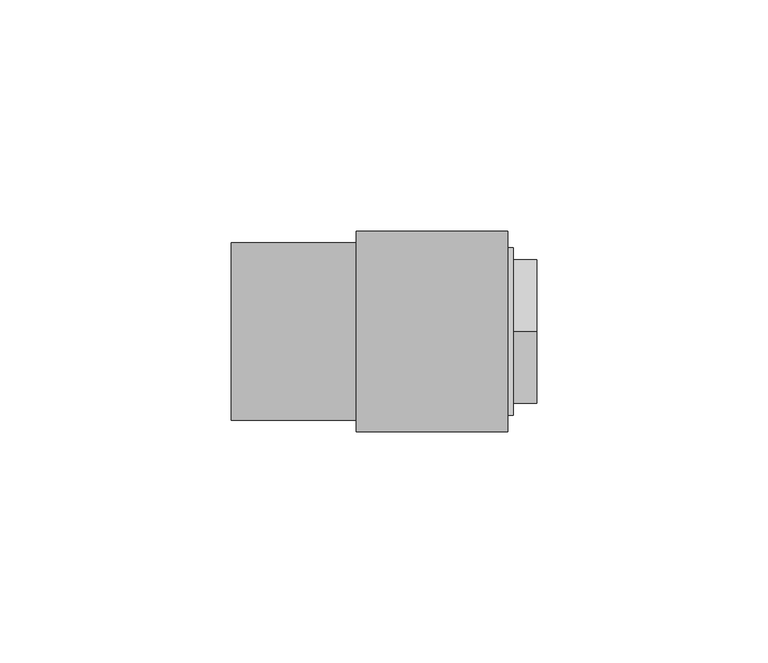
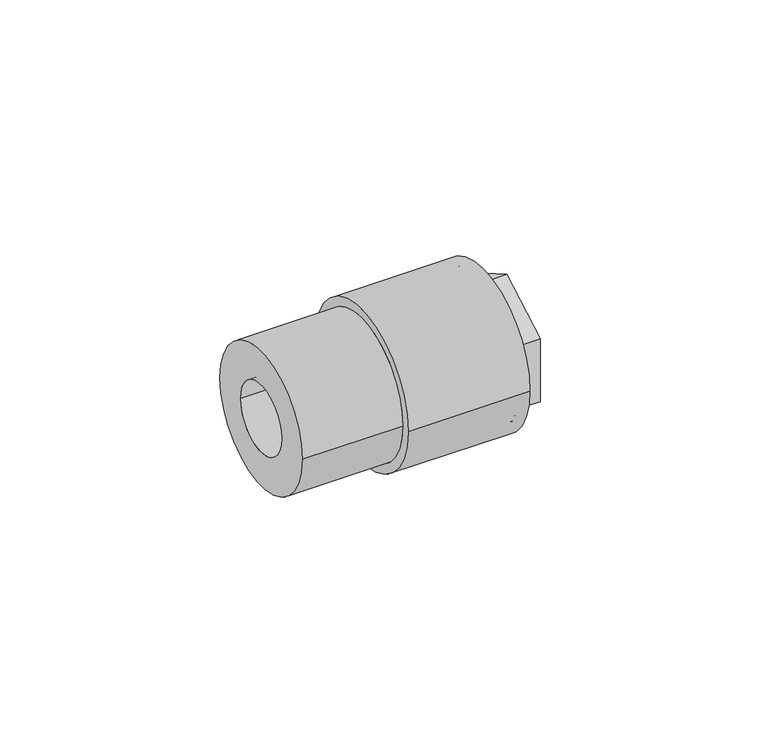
"""IFC4 building model written with IfcOpenShell, lengths in millimetres: pipe fitting geometry, Aquatherm - Fusion Outlet Transition Female : POTABLE BRASS - HEX."""

from ifc_helpers import new_model, si_unit, frame, origin, place, context, project, spatial, polyline, circle_curve, source, transform, mapped, element, save
from ifc_brep_helpers import plane_surface, cylinder_surface, revolved_surface, advanced_brep


def pipe_fitting_83f90b11(model_context):
    return source(origin(), model_context, "Body", "AdvancedBrep", [
        advanced_brep(
        [(25.62225, 12.7, 0.0), (25.62225, -12.7, 0.0), (36.5363125, -12.7, 0.0), (36.5363125, 12.7, 0.0), (25.62225, 13.49375, 0.0), (25.62225, -13.49375, 0.0), (22.44725, 13.49375, 0.0), (22.44725, -13.49375, 0.0), (22.44725, 9.525, 0.0), (22.44725, -9.525, 0.0), (19.27225, 9.525, 0.0), (19.27225, -9.525, 0.0), (19.27225, 19.177, 0.0), (19.27225, -19.177, 0.0), (32.766, 19.177, 0.0), (32.766, -19.177, 0.0), (39.116, 13.49375, 0.0), (39.116, -13.49375, 0.0), (39.116, -15.494, 0.0), (39.116, -15.494, -8.9454651), (39.116, 0.0, -17.8909301), (39.116, 15.494, -8.9454651), (39.116, 15.494, 0.0), (39.116, 15.494, 8.9454651), (39.116, 0.0, 17.8909301), (39.116, -15.494, 8.9454651), (32.766, 18.161, 0.0), (32.766, -18.161, 0.0), (33.956625, 18.161, 0.0), (33.956625, -18.161, 0.0), (33.956625, 0.0, -17.8909301), (33.956625, -15.494, -8.9454651), (33.956625, -15.494, 8.9454651), (33.956625, 0.0, 17.8909301), (33.956625, 15.494, 8.9454651), (33.956625, 15.494, -8.9454651)],
        [
            (0, 1, circle_curve(frame((25.62225, 0.0, 0.0), z_axis=(-1.0, 0.0, 0.0), x_axis=(0.0, -1.0, 0.0)), 12.7)),
            (1, 2),
            (2, 3, circle_curve(frame((36.5363125, 0.0, 0.0), z_axis=(1.0, 0.0, 0.0), x_axis=(0.0, -1.0, 0.0)), 12.7)),
            (3, 0),
            (1, 0, circle_curve(frame((25.62225, 0.0, 0.0), z_axis=(-1.0, 0.0, 0.0), x_axis=(0.0, -1.0, 0.0)), 12.7)),
            (3, 2, circle_curve(frame((36.5363125, 0.0, 0.0), z_axis=(1.0, 0.0, 0.0), x_axis=(0.0, -1.0, 0.0)), 12.7)),
            (0, 4),
            (4, 5, circle_curve(frame((25.62225, 0.0, 0.0), z_axis=(-1.0, 0.0, 0.0), x_axis=(0.0, -1.0, 0.0)), 13.49375)),
            (5, 1),
            (5, 4, circle_curve(frame((25.62225, 0.0, 0.0), z_axis=(-1.0, 0.0, 0.0), x_axis=(0.0, -1.0, 0.0)), 13.49375)),
            (4, 6),
            (6, 7, circle_curve(frame((22.44725, 0.0, 0.0), z_axis=(-1.0, 0.0, 0.0), x_axis=(0.0, -1.0, 0.0)), 13.49375)),
            (7, 5),
            (7, 6, circle_curve(frame((22.44725, 0.0, 0.0), z_axis=(-1.0, 0.0, 0.0), x_axis=(0.0, -1.0, 0.0)), 13.49375)),
            (6, 8),
            (8, 9, circle_curve(frame((22.44725, 0.0, 0.0), z_axis=(-1.0, 0.0, 0.0), x_axis=(0.0, -1.0, 0.0)), 9.525)),
            (9, 7),
            (9, 8, circle_curve(frame((22.44725, 0.0, 0.0), z_axis=(-1.0, 0.0, 0.0), x_axis=(0.0, -1.0, 0.0)), 9.525)),
            (8, 10),
            (10, 11, circle_curve(frame((19.27225, 0.0, 0.0), z_axis=(-1.0, 0.0, 0.0), x_axis=(0.0, -1.0, 0.0)), 9.525)),
            (11, 9),
            (11, 10, circle_curve(frame((19.27225, 0.0, 0.0), z_axis=(-1.0, 0.0, 0.0), x_axis=(0.0, -1.0, 0.0)), 9.525)),
            (10, 12),
            (12, 13, circle_curve(frame((19.27225, 0.0, 0.0), z_axis=(-1.0, 0.0, 0.0), x_axis=(0.0, -1.0, 0.0)), 19.177)),
            (13, 11),
            (13, 12, circle_curve(frame((19.27225, 0.0, 0.0), z_axis=(-1.0, 0.0, 0.0), x_axis=(0.0, -1.0, 0.0)), 19.177)),
            (12, 14),
            (14, 15, circle_curve(frame((32.766, 0.0, 0.0), z_axis=(-1.0, 0.0, 0.0), x_axis=(0.0, -1.0, 0.0)), 19.177)),
            (15, 13),
            (15, 14, circle_curve(frame((32.766, 0.0, 0.0), z_axis=(-1.0, 0.0, 0.0), x_axis=(0.0, -1.0, 0.0)), 19.177)),
            (16, 17, circle_curve(frame((39.116, 0.0, 0.0), z_axis=(-1.0, 0.0, 0.0), x_axis=(0.0, -1.0, 0.0)), 13.49375)),
            (17, 18),
            (18, 19),
            (19, 20),
            (20, 21),
            (21, 22),
            (22, 16),
            (17, 16, circle_curve(frame((39.116, 0.0, 0.0), z_axis=(-1.0, 0.0, 0.0), x_axis=(0.0, -1.0, 0.0)), 13.49375)),
            (22, 23),
            (23, 24),
            (24, 25),
            (25, 18),
            (2, 17),
            (16, 3),
            (14, 26),
            (26, 27, circle_curve(frame((32.766, 0.0, 0.0), z_axis=(-1.0, 0.0, 0.0), x_axis=(0.0, -1.0, 0.0)), 18.161)),
            (27, 15),
            (27, 26, circle_curve(frame((32.766, 0.0, 0.0), z_axis=(-1.0, 0.0, 0.0), x_axis=(0.0, -1.0, 0.0)), 18.161)),
            (26, 28),
            (28, 29, circle_curve(frame((33.956625, 0.0, 0.0), z_axis=(-1.0, 0.0, 0.0), x_axis=(0.0, -1.0, 0.0)), 18.161)),
            (29, 27),
            (29, 28, circle_curve(frame((33.956625, 0.0, 0.0), z_axis=(-1.0, 0.0, 0.0), x_axis=(0.0, -1.0, 0.0)), 18.161)),
            (30, 31),
            (31, 32),
            (32, 33),
            (33, 34),
            (34, 35),
            (35, 30),
            (35, 21),
            (20, 30),
            (34, 23),
            (33, 24),
            (32, 25),
            (31, 19),
        ],
        [
            revolved_surface(polyline([(36.5363125, -12.7, 0.0), (25.62225, -12.7, 0.0)]), (40.9492251, 0.0, 0.0), (1.0, 0.0, 0.0)),
            plane_surface(frame((25.62225, 0.0, 0.0), z_axis=(-1.0, 0.0, 0.0), x_axis=(0.0, -1.0, 0.0))),
            revolved_surface(polyline([(25.62225, -13.49375, 0.0), (22.44725, -13.49375, 0.0)]), (40.9492251, 0.0, 0.0), (1.0, 0.0, 0.0)),
            plane_surface(frame((22.44725, 0.0, 0.0), z_axis=(1.0, 0.0, 0.0), x_axis=(0.0, -1.0, 0.0))),
            revolved_surface(polyline([(22.44725, -9.525, 0.0), (19.27225, -9.525, 0.0)]), (40.9492251, 0.0, 0.0), (1.0, 0.0, 0.0)),
            plane_surface(frame((19.27225, 0.0, 0.0), z_axis=(-1.0, 0.0, 0.0), x_axis=(0.0, -1.0, 0.0))),
            cylinder_surface(frame((40.9492251, 0.0, 0.0), z_axis=(1.0, 0.0, 0.0), x_axis=(0.0, -1.0, 0.0)), 19.177),
            plane_surface(frame((39.116, 0.0, 0.0), z_axis=(1.0, 0.0, 0.0), x_axis=(0.0, -1.0, 0.0))),
            revolved_surface(polyline([(39.116, -13.49375, 0.0), (36.5363125, -12.7, 0.0)]), (40.9492251, 0.0, 0.0), (1.0, 0.0, 0.0)),
            plane_surface(frame((32.766, 0.0, 0.0), z_axis=(1.0, 0.0, 0.0), x_axis=(0.0, -1.0, 0.0))),
            cylinder_surface(frame((40.9492251, 0.0, 0.0), z_axis=(1.0, 0.0, 0.0), x_axis=(0.0, -1.0, 0.0)), 18.161),
            plane_surface(frame((33.956625, 15.494, -8.9454651), z_axis=(1.0000000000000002, 0.0, 0.0), x_axis=(0.0, 0.8660254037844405, 0.49999999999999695))),
            plane_surface(frame((33.956625, 0.0, -17.8909301), z_axis=(0.0, 0.49999999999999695, -0.8660254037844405), x_axis=(1.0, 0.0, 0.0))),
            plane_surface(frame((33.956625, 15.494, -8.9454651), z_axis=(0.0, 1.0, 0.0), x_axis=(1.0, 0.0, 0.0))),
            plane_surface(frame((33.956625, 15.494, 8.9454651), z_axis=(0.0, 0.5000000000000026, 0.8660254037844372), x_axis=(1.0, 0.0, 0.0))),
            plane_surface(frame((33.956625, 0.0, 17.8909301), z_axis=(0.0, -0.499999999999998, 0.8660254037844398), x_axis=(1.0, 0.0, 0.0))),
            plane_surface(frame((33.956625, -15.494, 8.9454651), z_axis=(0.0, -1.0, 0.0), x_axis=(1.0, 0.0, 0.0))),
            plane_surface(frame((33.956625, -15.494, -8.9454651), z_axis=(0.0, -0.5000000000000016, -0.8660254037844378), x_axis=(1.0, 0.0, 0.0))),
        ],
        [
            (0, [[1, 2, 3, 4]]),
            (0, [[-2, 5, -4, 6]]),
            (1, [[-1, 7, 8, 9]]),
            (1, [[-5, -9, 10, -7]]),
            (2, [[-8, 11, 12, 13]]),
            (2, [[-10, -13, 14, -11]]),
            (3, [[-12, 15, 16, 17]]),
            (3, [[-14, -17, 18, -15]]),
            (4, [[-16, 19, 20, 21]]),
            (4, [[-18, -21, 22, -19]]),
            (5, [[-20, 23, 24, 25]]),
            (5, [[-22, -25, 26, -23]]),
            (6, [[-24, 27, 28, 29]]),
            (6, [[-26, -29, 30, -27]]),
            (7, [[31, 32, 33, 34, 35, 36, 37]]),
            (7, [[38, -37, 39, 40, 41, 42, -32]]),
            (8, [[-3, 43, -31, 44]]),
            (8, [[-6, -44, -38, -43]]),
            (9, [[-28, 45, 46, 47]]),
            (9, [[-30, -47, 48, -45]]),
            (10, [[-46, 49, 50, 51]]),
            (10, [[-48, -51, 52, -49]]),
            (11, [[-50, -52], [53, 54, 55, 56, 57, 58]]),
            (12, [[-58, 59, -35, 60]]),
            (13, [[-57, 61, -39, -36, -59]]),
            (14, [[-56, 62, -40, -61]]),
            (15, [[-55, 63, -41, -62]]),
            (16, [[-54, 64, -33, -42, -63]]),
            (17, [[-53, -60, -34, -64]]),
        ],
    ),
        advanced_brep(
        [(-27.0475676, 19.177, 0.0), (-27.0475676, -19.177, 0.0), (-27.0475676, 9.525, 0.0), (-27.0475676, -9.525, 0.0), (19.27225, 19.177, 0.0), (19.27225, -19.177, 0.0), (19.27225, 9.525, 0.0), (19.27225, -9.525, 0.0), (0.0, 19.177, 0.0), (0.0, -19.177, 0.0), (32.766, 21.717, 0.0), (32.766, -21.717, 0.0), (32.766, 19.177, 0.0), (32.766, -19.177, 0.0), (0.0, 21.717, 0.0), (0.0, -21.717, 0.0)],
        [
            (0, 1, circle_curve(frame((-27.0475676, 0.0, 0.0), z_axis=(-1.0, 0.0, 0.0), x_axis=(0.0, -1.0, 0.0)), 19.177)),
            (1, 0, circle_curve(frame((-27.0475676, 0.0, 0.0), z_axis=(-1.0, 0.0, 0.0), x_axis=(0.0, -1.0, 0.0)), 19.177)),
            (2, 3, circle_curve(frame((-27.0475676, 0.0, 0.0), z_axis=(1.0, 0.0, 0.0), x_axis=(0.0, -1.0, 0.0)), 9.525)),
            (3, 2, circle_curve(frame((-27.0475676, 0.0, 0.0), z_axis=(1.0, 0.0, 0.0), x_axis=(0.0, -1.0, 0.0)), 9.525)),
            (4, 5, circle_curve(frame((19.27225, 0.0, 0.0), z_axis=(1.0, 0.0, 0.0), x_axis=(0.0, -1.0, 0.0)), 19.177)),
            (5, 4, circle_curve(frame((19.27225, 0.0, 0.0), z_axis=(1.0, 0.0, 0.0), x_axis=(0.0, -1.0, 0.0)), 19.177)),
            (6, 7, circle_curve(frame((19.27225, 0.0, 0.0), z_axis=(-1.0, 0.0, 0.0), x_axis=(0.0, -1.0, 0.0)), 9.525)),
            (7, 6, circle_curve(frame((19.27225, 0.0, 0.0), z_axis=(-1.0, 0.0, 0.0), x_axis=(0.0, -1.0, 0.0)), 9.525)),
            (2, 6),
            (7, 3),
            (0, 8),
            (8, 9, circle_curve(frame((0.0, 0.0, 0.0), z_axis=(-1.0, 0.0, 0.0), x_axis=(0.0, -1.0, 0.0)), 19.177)),
            (9, 1),
            (9, 8, circle_curve(frame((0.0, 0.0, 0.0), z_axis=(-1.0, 0.0, 0.0), x_axis=(0.0, -1.0, 0.0)), 19.177)),
            (10, 11, circle_curve(frame((32.766, 0.0, 0.0), z_axis=(1.0, 0.0, 0.0), x_axis=(0.0, -1.0, 0.0)), 21.717)),
            (11, 10, circle_curve(frame((32.766, 0.0, 0.0), z_axis=(1.0, 0.0, 0.0), x_axis=(0.0, -1.0, 0.0)), 21.717)),
            (12, 13, circle_curve(frame((32.766, 0.0, 0.0), z_axis=(-1.0, 0.0, 0.0), x_axis=(0.0, -1.0, 0.0)), 19.177)),
            (13, 12, circle_curve(frame((32.766, 0.0, 0.0), z_axis=(-1.0, 0.0, 0.0), x_axis=(0.0, -1.0, 0.0)), 19.177)),
            (14, 15, circle_curve(frame((0.0, 0.0, 0.0), z_axis=(-1.0, 0.0, 0.0), x_axis=(0.0, -1.0, 0.0)), 21.717)),
            (15, 14, circle_curve(frame((0.0, 0.0, 0.0), z_axis=(-1.0, 0.0, 0.0), x_axis=(0.0, -1.0, 0.0)), 21.717)),
            (13, 5),
            (4, 12),
            (11, 15),
            (14, 10),
        ],
        [
            plane_surface(frame((-27.0475676, -9.525, 0.0), z_axis=(-1.0, 0.0, 0.0), x_axis=(0.0, 0.0, -1.0))),
            plane_surface(frame((19.27225, -9.525, 0.0), z_axis=(1.0, 0.0, 0.0), x_axis=(0.0, 0.0, 1.0))),
            revolved_surface(polyline([(19.27225, -9.525, 0.0), (-27.0475676, -9.525, 0.0)]), (19.27225, 0.0, 0.0), (1.0, 0.0, 0.0)),
            cylinder_surface(frame((0.0, 0.0, 0.0), z_axis=(-1.0, 0.0, 0.0), x_axis=(0.0, -1.0, 0.0)), 19.177),
            plane_surface(frame((32.766, -19.177, 0.0), z_axis=(1.0, 0.0, 0.0), x_axis=(0.0, 0.0, 1.0))),
            plane_surface(frame((0.0, -19.177, 0.0), z_axis=(-1.0, 0.0, 0.0), x_axis=(0.0, 0.0, -1.0))),
            revolved_surface(polyline([(32.766, -19.177, 0.0), (19.27225, -19.177, 0.0)]), (32.766, 0.0, 0.0), (1.0, 0.0, 0.0)),
            cylinder_surface(frame((0.0, 0.0, 0.0), z_axis=(-1.0, 0.0, 0.0), x_axis=(0.0, -1.0, 0.0)), 21.717),
        ],
        [
            (0, [[1, 2], [3, 4]]),
            (1, [[5, 6], [7, 8]]),
            (2, [[-3, 9, -8, 10]]),
            (2, [[-4, -10, -7, -9]]),
            (3, [[-1, 11, 12, 13]]),
            (3, [[-2, -13, 14, -11]]),
            (4, [[15, 16], [17, 18]]),
            (5, [[19, 20], [-12, -14]]),
            (6, [[-18, 21, -5, 22]]),
            (6, [[-17, -22, -6, -21]]),
            (7, [[-16, 23, -19, 24]]),
            (7, [[-15, -24, -20, -23]]),
        ],
    ),
    ])


if __name__ == "__main__":
    model = new_model("IFC4")
    model_context = context("Model", 3, world=origin())
    ifc_project = project(units=[si_unit("LENGTHUNIT", "METRE", prefix="MILLI")], contexts=[model_context])
    site = spatial("IfcSite", under=ifc_project)
    building = spatial("IfcBuilding", under=site)
    placement = place(None, origin())
    pipe_fitting_shape = pipe_fitting_83f90b11(model_context)
    element("IfcPipeFitting", 1, ObjectType="Aquatherm - Fusion Outlet Transition Female : POTABLE BRASS - HEX", at=placement, inside=building, context=model_context, shape_type="MappedRepresentation", body=[
        mapped(pipe_fitting_shape, transform((0.0, 0.0, 0.0), x_axis=(1.0, 0.0, 0.0), y_axis=(0.0, 1.0, 0.0), z_axis=(0.0, 0.0, 1.0))),
    ])
    save(model, "model.ifc")
